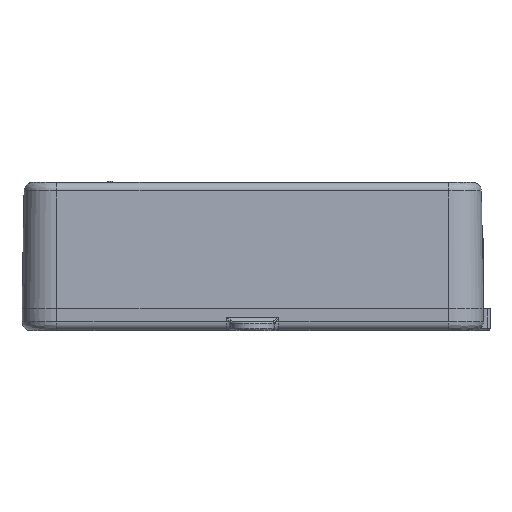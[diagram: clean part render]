
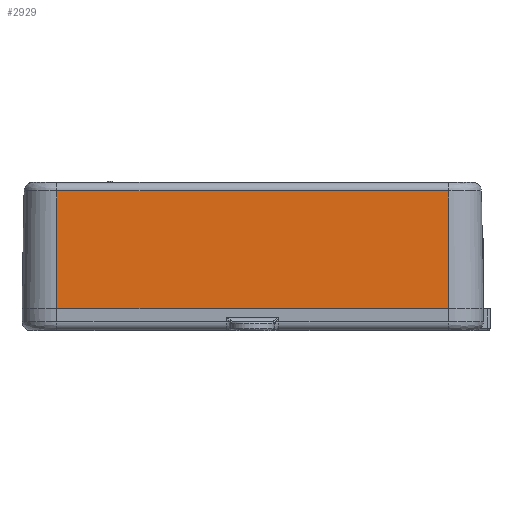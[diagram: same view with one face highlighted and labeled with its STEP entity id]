
A CAD part, top view. The second image highlights one B-rep face of the part: STEP entity #2929.
In plain terms, the highlighted free-form (B-spline) face has degree [1, 1] with [2, 2] control points.
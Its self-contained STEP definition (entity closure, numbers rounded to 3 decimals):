
#992 = VECTOR ( 'NONE', #11975, 1000. ) ;
#994 = CARTESIAN_POINT ( 'NONE',  ( 45., 5., 23. ) ) ;
#1051 = CARTESIAN_POINT ( 'NONE',  ( -45., 5., 23. ) ) ;
#2689 = B_SPLINE_SURFACE_WITH_KNOTS ( 'NONE', 1, 1, ( 
 ( #18052, #5078 ),
 ( #23980, #20404 ) ),
 .UNSPECIFIED., .F., .F., .F.,
 ( 2, 2 ),
 ( 2, 2 ),
 ( -46.8, 46.8 ),
 ( -14.06, 14.06 ),
 .UNSPECIFIED. ) ;
#2929 = ADVANCED_FACE ( 'NONE', ( #4836 ), #2689, .T. ) ;
#3339 = VERTEX_POINT ( 'NONE', #994 ) ;
#3470 = LINE ( 'NONE', #9142, #4918 ) ;
#4836 = FACE_OUTER_BOUND ( 'NONE', #20614, .T. ) ;
#4918 = VECTOR ( 'NONE', #20271, 1000. ) ;
#5078 = CARTESIAN_POINT ( 'NONE',  ( 46.8, 4.459, 23.009 ) ) ;
#7480 = EDGE_CURVE ( 'NONE', #16282, #3339, #11503, .T. ) ;
#8287 = ORIENTED_EDGE ( 'NONE', *, *, #7480, .T. ) ;
#8342 = ORIENTED_EDGE ( 'NONE', *, *, #16463, .F. ) ;
#8746 = EDGE_CURVE ( 'NONE', #10228, #14988, #3470, .T. ) ;
#9142 = CARTESIAN_POINT ( 'NONE',  ( -45., 32.035, 22.528 ) ) ;
#9180 = DIRECTION ( 'NONE',  ( 1., 0., 0. ) ) ;
#10228 = VERTEX_POINT ( 'NONE', #24136 ) ;
#11503 = LINE ( 'NONE', #17196, #17756 ) ;
#11975 = DIRECTION ( 'NONE',  ( 0., -1., 0.017 ) ) ;
#11980 = EDGE_CURVE ( 'NONE', #10228, #16282, #13803, .T. ) ;
#12430 = DIRECTION ( 'NONE',  ( 0., -1., 0.017 ) ) ;
#13803 = LINE ( 'NONE', #14290, #24033 ) ;
#14290 = CARTESIAN_POINT ( 'NONE',  ( -45., 32.035, 22.528 ) ) ;
#14931 = ORIENTED_EDGE ( 'NONE', *, *, #8746, .F. ) ;
#14988 = VERTEX_POINT ( 'NONE', #16972 ) ;
#16182 = ORIENTED_EDGE ( 'NONE', *, *, #11980, .T. ) ;
#16282 = VERTEX_POINT ( 'NONE', #1051 ) ;
#16463 = EDGE_CURVE ( 'NONE', #14988, #3339, #23227, .T. ) ;
#16972 = CARTESIAN_POINT ( 'NONE',  ( 45., 32.035, 22.528 ) ) ;
#17196 = CARTESIAN_POINT ( 'NONE',  ( -45., 5., 23. ) ) ;
#17756 = VECTOR ( 'NONE', #9180, 1000. ) ;
#18052 = CARTESIAN_POINT ( 'NONE',  ( 46.8, 32.576, 22.519 ) ) ;
#20271 = DIRECTION ( 'NONE',  ( 1., 0., 0. ) ) ;
#20404 = CARTESIAN_POINT ( 'NONE',  ( -46.8, 4.459, 23.009 ) ) ;
#20614 = EDGE_LOOP ( 'NONE', ( #14931, #16182, #8287, #8342 ) ) ;
#21371 = CARTESIAN_POINT ( 'NONE',  ( 45., 32.035, 22.528 ) ) ;
#23227 = LINE ( 'NONE', #21371, #992 ) ;
#23980 = CARTESIAN_POINT ( 'NONE',  ( -46.8, 32.576, 22.519 ) ) ;
#24033 = VECTOR ( 'NONE', #12430, 1000. ) ;
#24136 = CARTESIAN_POINT ( 'NONE',  ( -45., 32.035, 22.528 ) ) ;
